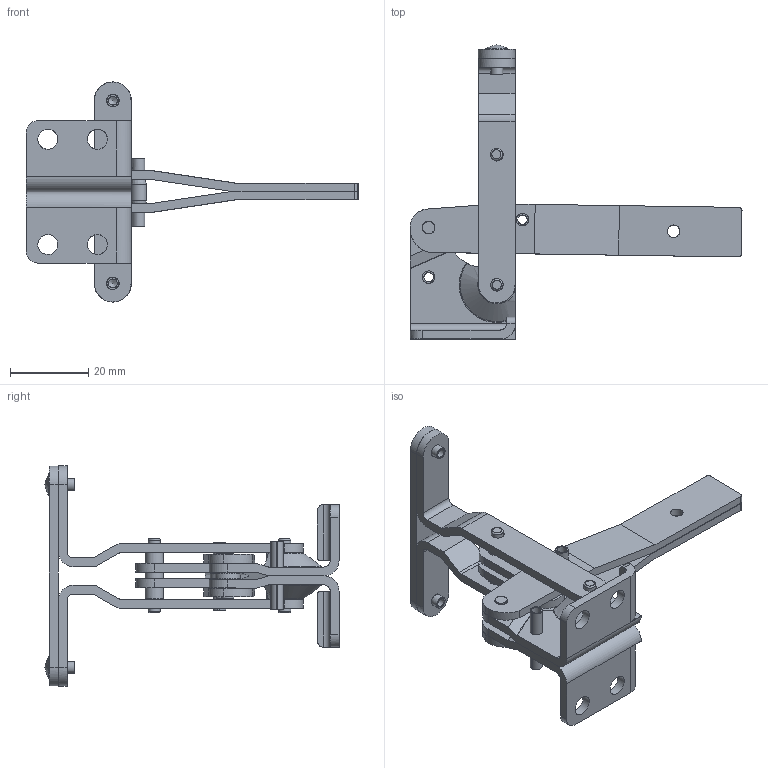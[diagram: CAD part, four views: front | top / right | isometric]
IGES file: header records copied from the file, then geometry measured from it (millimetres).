
Global section: file name: TC-100; native system: Autodesk RealDWG; preprocessor: Autodesk Translation Framework DWG producer (atf_dwg_producer); author: rtaylor; organization: unknown; date: 20151006.160206; units: inch
Bounding box: 85.09 x 75.36 x 56.4 mm (x, y, z)
Volume: 15654.6 mm3; surface area: 18602.2 mm2
Topology: 17 solids, 17 shells, 258 faces, 652 edges, 440 vertices
Faces by surface type: bspline 258
